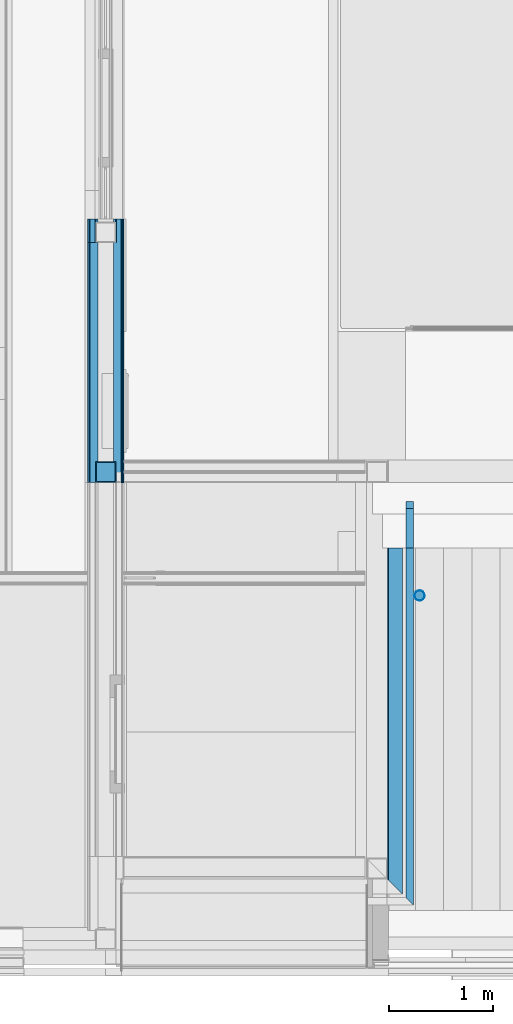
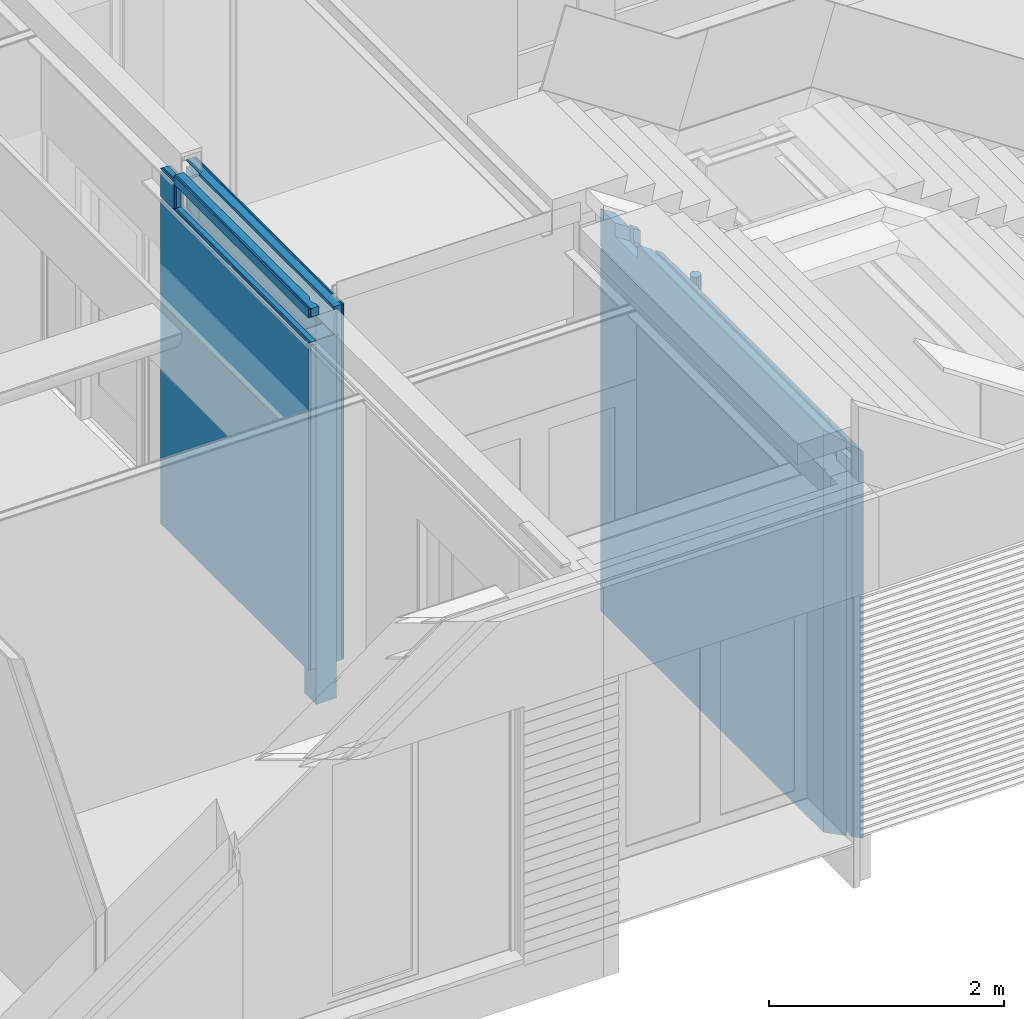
# One storey, part 47 of 165: 12 building element parts, 4 elements without a shape of their own.
"""IFC2X3 building model written with IfcOpenShell, lengths in millimetres."""

from ifc_helpers import new_model, entity, si_unit, converted_unit, derived_unit, money_unit, direction, frame, origin_with_axes, place, context, subcontext, project, spatial, faceted_brep, material, type_object, element, aggregate, save


model = new_model("IFC2X3")

# Units and contexts
model_context = context("Model", 3, precision=0.01, world=origin_with_axes(), true_north=direction((0.0, 1.0)))
body_context = subcontext(model_context, "Body", "Model", "MODEL_VIEW")
ifc_project = project(units=[si_unit("LENGTHUNIT", "METRE", prefix="MILLI"), si_unit("AREAUNIT", "SQUARE_METRE"), si_unit("VOLUMEUNIT", "CUBIC_METRE"), converted_unit("PLANEANGLEUNIT", "DEGREE", entity("IfcPlaneAngleMeasure", 0.0174532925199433), si_unit("PLANEANGLEUNIT", "RADIAN"), dimensions=[0, 0, 0, 0, 0, 0, 0]), money_unit("EUR"), converted_unit("TIMEUNIT", "Year", entity("IfcTimeMeasure", 31556926.0), si_unit("TIMEUNIT", "SECOND"), dimensions=[0, 0, 1, 0, 0, 0, 0]), si_unit("MASSUNIT", "GRAM", prefix="KILO"), si_unit("THERMODYNAMICTEMPERATUREUNIT", "DEGREE_CELSIUS"), si_unit("LUMINOUSINTENSITYUNIT", "LUMEN"), si_unit("ENERGYUNIT", "JOULE", prefix="MEGA"), derived_unit("THERMALCONDUCTANCEUNIT", [(si_unit("POWERUNIT", "WATT"), 1), (si_unit("LENGTHUNIT", "METRE"), -1), (si_unit("THERMODYNAMICTEMPERATUREUNIT", "KELVIN"), -1)]), derived_unit("SPECIFICHEATCAPACITYUNIT", [(si_unit("ENERGYUNIT", "JOULE"), 1), (si_unit("MASSUNIT", "GRAM", prefix="KILO"), -1), (si_unit("THERMODYNAMICTEMPERATUREUNIT", "KELVIN"), -1)]), derived_unit("MASSDENSITYUNIT", [(si_unit("MASSUNIT", "GRAM", prefix="KILO"), 1), (si_unit("VOLUMEUNIT", "CUBIC_METRE"), -1)])], contexts=[model_context])

# Site, building, storey
site_placement = place(None, origin_with_axes())
site = spatial("IfcSite", under=ifc_project, at=site_placement, Name="Site", CompositionType="ELEMENT")
building_placement = place(site_placement, origin_with_axes())
building = spatial("IfcBuilding", under=site, at=building_placement, Name="Naam gebouw", CompositionType="ELEMENT")
storey_placement = place(building_placement, origin_with_axes())
storey = spatial("IfcBuildingStorey", under=building, at=storey_placement, Name="Begane grond", CompositionType="ELEMENT", Elevation=0.0)

# Wall, building element parts
wall_type = type_object("IfcWallType", Name="21 Buitenwand spouwmuur kalkzandsteen 464", PredefinedType="NOTDEFINED")
wall_placement = place(storey_placement, frame((11550.0, 679.9999999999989, -485.0), z_axis=(0.0, 0.0, 1.0), x_axis=(0.0, 1.0, 0.0)))
wall = element("IfcWall", 1, at=wall_placement, inside=storey, type_object=wall_type, Name="21_Wand-x")
ifc_material_1 = material(Name="Isolatie - Steenwol zacht")
building_element_part_1_placement = place(wall_placement, origin_with_axes())
building_element_part_1 = element("IfcBuildingElementPart", 2, at=building_element_part_1_placement, material=ifc_material_1, Name="Isolatie - Steenwol zacht", context=body_context, shape_type="Brep", body=[
    faceted_brep([(3549.982367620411, 8.757421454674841e-07, 4191.358214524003), (3549.982367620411, -144.9999805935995, 4094.691560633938), (3800.000000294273, -144.999998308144, 4094.691548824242), (3800.000000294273, 8.757421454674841e-07, 4191.358214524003), (3549.982367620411, -144.9999966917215, 3952.271364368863), (3549.982367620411, 1.573038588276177e-06, 4055.000000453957), (3549.982367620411, -1.000000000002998, 4055.000000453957), (3549.982367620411, -1.000000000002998, 4048.271361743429), (3174.000000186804, -144.9999966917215, 3952.271364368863), (3174.000000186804, -144.9999973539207, 4096.493409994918), (-144.9999770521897, -144.9999770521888, 4096.493358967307), (-144.9999770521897, -144.9999770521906, 0.0), (3800.0, -144.999998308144, 0.0), (3800.0, -16.00000000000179, 3775.000000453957), (3800.0, -16.00000000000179, 3790.000000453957), (3800.0, -1.000000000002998, 3790.000000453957), (3800.0, -1.000000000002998, 4055.000000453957), (3800.0, 8.757421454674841e-07, 4055.000000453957), (3800.0, 8.757421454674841e-07, 0.0), (3800.0, 8.757421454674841e-07, 3775.000000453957), (-1.000000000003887, -1.000000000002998, 3790.000000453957), (-1.000000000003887, -1.000000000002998, 4055.000000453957), (3174.000000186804, -1.000000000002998, 4055.000000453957), (3174.000000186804, -1.000000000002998, 4048.271361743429), (3174.000000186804, -89.99990827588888, 4133.160136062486), (3174.000000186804, 2.621650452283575e-06, 4055.000000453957), (3174.000000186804, 2.169732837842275e-06, 4184.999999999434), (3174.000000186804, -12.24011238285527, 4184.999999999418), (-89.99981308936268, -89.99981308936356, 4133.16013606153), (-12.2400194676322, -12.24001946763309, 4184.999999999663), (1.147390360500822e-05, 1.147390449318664e-05, 4184.999999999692), (1.147390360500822e-05, 1.147390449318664e-05, 4055.000000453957), (-16.00000000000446, -16.00000000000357, 3790.000000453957), (-16.00000000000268, -16.00000000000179, 3775.000000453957), (1.147390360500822e-05, 1.147390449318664e-05, 3775.000000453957), (1.147390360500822e-05, 1.147390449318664e-05, 0.0)], [[[0, 1, 2, 3]], [[4, 1, 0, 5, 6, 7]], [[8, 9, 10, 11, 12, 2, 1, 4]], [[13, 14, 15, 16, 17, 3, 2, 12, 18, 19]], [[5, 0, 3, 17]], [[6, 5, 17, 16]], [[7, 6, 16, 15, 20, 21, 22, 23]], [[8, 4, 7, 23]], [[24, 9, 8, 23, 22, 25, 26, 27]], [[9, 24, 28, 10]], [[11, 10, 28, 29, 30, 31, 21, 20, 32, 33, 34, 35]], [[12, 11, 35, 18]], [[13, 33, 32, 14]], [[14, 32, 20, 15]], [[19, 18, 35, 34]], [[19, 34, 33, 13]], [[25, 22, 21, 31]], [[26, 25, 31, 30]], [[27, 26, 30, 29]], [[24, 27, 29, 28]]]),
])
ifc_material_2 = material(Name="Steen - Kalkzandsteen")
building_element_part_2_placement = place(wall_placement, origin_with_axes())
building_element_part_2 = element("IfcBuildingElementPart", 3, at=building_element_part_2_placement, material=ifc_material_2, Name="Steen - Kalkzandsteen", context=body_context, shape_type="Brep", body=[
    faceted_brep([(3549.982367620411, -180.0000175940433, 4071.358202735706), (3549.982367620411, -250.0, 4024.691548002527), (3620.0, -250.0, 4024.691548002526), (3620.0, -180.0000032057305, 4071.358212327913), (3549.982367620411, -250.0, 3882.271362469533), (3549.982367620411, -179.9998104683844, 3928.938155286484), (3174.000000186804, -250.0, 3882.271362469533), (3174.000000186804, -250.0, 4026.493408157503), (-249.9999762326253, -250.0, 4026.493341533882), (-249.9999762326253, -250.0, 0.0), (3620.0, -250.0, 0.0), (3620.0, -180.0000032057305, 0.0), (-180.000027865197, -180.0000278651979, 0.0), (-180.0000278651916, -179.9998104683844, 4073.160136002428), (3174.000000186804, -179.9999082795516, 4073.160136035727), (3174.000000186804, -179.9998104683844, 3928.938155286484)], [[[0, 1, 2, 3]], [[4, 1, 0, 5]], [[6, 7, 8, 9, 10, 2, 1, 4]], [[2, 10, 11, 3]], [[5, 0, 3, 11, 12, 13, 14, 15]], [[6, 4, 5, 15]], [[14, 7, 6, 15]], [[7, 14, 13, 8]], [[12, 9, 8, 13]], [[12, 11, 10, 9]]]),
])
aggregate(wall, [building_element_part_1, building_element_part_2])

# Column, building element parts
column_type_1 = type_object("IfcColumnType", Name="200X200X10 200 x 200", PredefinedType="COLUMN")
column_1_placement = place(storey_placement, frame((8850.000000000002, 4579.999999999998, -480.0), z_axis=(0.0, 0.0, 1.0), x_axis=(1.0, 0.0, 0.0)))
column_1 = element("IfcColumn", 4, at=column_1_placement, inside=storey, type_object=column_type_1, Name="28_Kolom-x", ObjectType="COLUMN")
ifc_material_3 = material(Name="Metaal - Staal C")
building_element_part_3_placement = place(column_1_placement, origin_with_axes())
building_element_part_3 = element("IfcBuildingElementPart", 5, at=building_element_part_3_placement, material=ifc_material_3, Name="Metaal - Staal C", context=body_context, shape_type="Brep", body=[
    faceted_brep([(-99.99999999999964, -99.99999999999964, 0.0), (99.99999999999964, -99.99999999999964, 0.0), (99.99999999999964, -99.99999999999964, 3790.0), (-99.99999999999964, -99.99999999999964, 3790.0), (-99.99999999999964, 99.99999999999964, 0.0), (99.99999999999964, 99.99999999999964, 0.0), (-89.99999999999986, -89.99999999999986, 0.0), (89.99999999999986, -89.99999999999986, 0.0), (89.99999999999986, 89.99999999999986, 0.0), (-89.99999999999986, 89.99999999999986, 0.0), (99.99999999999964, 99.99999999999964, 3790.0), (-99.99999999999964, 99.99999999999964, 3790.0), (-89.99999999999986, -89.99999999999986, 3790.0), (-89.99999999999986, 89.99999999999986, 3790.0), (89.99999999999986, 89.99999999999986, 3790.0), (89.99999999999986, -89.99999999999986, 3790.0)], [[[0, 1, 2, 3]], [[0, 4, 5, 1], [6, 7, 8, 9]], [[1, 5, 10, 2]], [[3, 2, 10, 11], [12, 13, 14, 15]], [[4, 0, 3, 11]], [[5, 4, 11, 10]], [[7, 6, 12, 15]], [[8, 7, 15, 14]], [[9, 8, 14, 13]], [[6, 9, 13, 12]]]),
])
ifc_material_4 = material(Name="Beton gewapend C")
building_element_part_4_placement = place(column_1_placement, origin_with_axes())
building_element_part_4 = element("IfcBuildingElementPart", 6, at=building_element_part_4_placement, material=ifc_material_4, Name="Beton gewapend C", context=body_context, shape_type="Brep", body=[
    faceted_brep([(-89.99999999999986, 89.99999999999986, 3760.000002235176), (89.99999999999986, 89.99999999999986, 3760.000002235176), (89.99999999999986, 89.99999999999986, 0.0), (-89.99999999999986, 89.99999999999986, 0.0), (89.99999999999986, -89.99999999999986, 3760.000002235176), (-89.99999999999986, -89.99999999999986, 3760.000002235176), (89.99999999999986, -89.99999999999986, 0.0), (-89.99999999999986, -89.99999999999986, 0.0)], [[[0, 1, 2, 3]], [[4, 1, 0, 5]], [[1, 4, 6, 2]], [[2, 6, 7, 3]], [[5, 0, 3, 7]], [[4, 5, 7, 6]]]),
    faceted_brep([(89.99999999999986, -89.99999999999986, 3785.000002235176), (89.99999999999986, 89.99999999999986, 3785.000002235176), (89.99999999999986, 89.99999999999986, 3790.0), (89.99999999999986, -89.99999999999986, 3790.0), (-89.99999999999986, 89.99999999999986, 3785.000002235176), (-89.99999999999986, -89.99999999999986, 3785.000002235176), (-89.99999999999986, 89.99999999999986, 3790.0), (-89.99999999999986, -89.99999999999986, 3790.0)], [[[0, 1, 2, 3]], [[4, 1, 0, 5]], [[1, 4, 6, 2]], [[2, 6, 7, 3]], [[5, 0, 3, 7]], [[4, 5, 7, 6]]]),
])
aggregate(column_1, [building_element_part_3, building_element_part_4])

# Proxy, building element parts
building_element_proxy_type = type_object("IfcBuildingElementProxyType", Name="22 Metal stud 350 350", PredefinedType="NOTDEFINED")
proxy_placement = place(storey_placement, frame((8850.000000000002, 7004.999999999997, -100.0), z_axis=(0.0, 0.0, 1.0), x_axis=(0.0, -1.0, 0.0)))
proxy = element("IfcBuildingElementProxy", 7, at=proxy_placement, inside=storey, type_object=building_element_proxy_type, Name="_Wand-x")
ifc_material_5 = material(Name="Gipsplaat")
building_element_part_5_placement = place(proxy_placement, origin_with_axes())
building_element_part_5 = element("IfcBuildingElementPart", 8, at=building_element_part_5_placement, material=ifc_material_5, Name="Gipsplaat", context=body_context, shape_type="Brep", body=[
    faceted_brep([(0.0, 162.4999999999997, 0.0), (0.0, 162.4999999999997, 3700.0), (0.0, 175.0000000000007, 3700.0), (0.0, 175.0000000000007, 0.0), (2524.999999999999, 162.4999999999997, 0.0), (2525.000000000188, 162.4999999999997, 3700.0), (2525.000000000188, 175.0000000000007, 3700.0), (2524.999999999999, 174.9999999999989, 0.0)], [[[0, 1, 2, 3]], [[4, 5, 1, 0]], [[5, 6, 2, 1]], [[3, 2, 6, 7]], [[0, 3, 7, 4]], [[7, 6, 5, 4]]]),
])
building_element_part_6_placement = place(proxy_placement, origin_with_axes())
building_element_part_6 = element("IfcBuildingElementPart", 9, at=building_element_part_6_placement, material=ifc_material_5, Name="Gipsplaat", context=body_context, shape_type="Brep", body=[
    faceted_brep([(0.0, 150.0000000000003, 0.0), (0.0, 150.0000000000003, 3700.0), (0.0, 162.4999999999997, 3700.0), (0.0, 162.4999999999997, 0.0), (2524.999999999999, 150.0000000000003, 0.0), (2525.000000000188, 150.0000000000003, 3700.0), (2525.000000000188, 162.4999999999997, 3700.0), (2524.999999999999, 162.4999999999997, 0.0)], [[[0, 1, 2, 3]], [[4, 5, 1, 0]], [[5, 6, 2, 1]], [[3, 2, 6, 7]], [[0, 3, 7, 4]], [[7, 6, 5, 4]]]),
])
ifc_material_6 = material(Name="ALG - LICHTE SCHEIDINGSWAND")
building_element_part_7_placement = place(proxy_placement, origin_with_axes())
building_element_part_7 = element("IfcBuildingElementPart", 10, at=building_element_part_7_placement, material=ifc_material_6, Name="ALG - LICHTE SCHEIDINGSWAND", context=body_context, shape_type="Brep", body=[
    faceted_brep([(2324.999999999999, 74.99999999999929, 3410.0), (2324.999999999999, 94.99999999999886, 3410.0), (2524.999999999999, 94.99999999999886, 3410.0), (2524.999999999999, 74.99999999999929, 3410.0), (2324.999999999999, 94.99999999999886, 3405.000002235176), (2324.999999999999, 74.99999999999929, 3405.000002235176), (224.9999999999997, 94.99999999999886, 3405.000002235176), (224.9999999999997, 94.99999999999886, 3410.0), (25.00000000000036, 94.99999999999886, 3410.0), (25.00000000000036, 94.99999999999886, 3405.000002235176), (0.0, 94.99999999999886, 3405.000002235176), (0.0, 94.99999999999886, 3630.000002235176), (2524.999999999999, 94.99999999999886, 3630.000002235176), (2524.999999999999, 74.99999999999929, 3630.000002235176), (0.0, 75.00000000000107, 3630.000002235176), (0.0, 75.00000000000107, 3405.000002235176), (25.00000000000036, 75.00000000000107, 3405.000002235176), (25.00000000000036, 74.99999999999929, 3410.0), (224.9999999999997, 74.99999999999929, 3410.0), (224.9999999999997, 75.00000000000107, 3405.000002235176)], [[[0, 1, 2, 3]], [[4, 1, 0, 5]], [[1, 4, 6, 7, 8, 9, 10, 11, 12, 2]], [[3, 2, 12, 13]], [[0, 3, 13, 14, 15, 16, 17, 18, 19, 5]], [[4, 5, 19, 6]], [[7, 6, 19, 18]], [[17, 8, 7, 18]], [[9, 8, 17, 16]], [[9, 16, 15, 10]], [[11, 10, 15, 14]], [[12, 11, 14, 13]]]),
    faceted_brep([(2324.999999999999, 99.99999999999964, 3380.000002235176), (2524.999999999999, 99.99999999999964, 3380.000002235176), (2524.999999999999, 117.9999999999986, 3380.000002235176), (0.0, 117.9999999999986, 3380.000002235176), (0.0, 75.00000000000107, 3380.000002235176), (25.00000000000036, 75.00000000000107, 3380.000002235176), (25.00000000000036, 99.99999999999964, 3380.000002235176), (224.9999999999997, 99.99999999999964, 3380.000002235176), (224.9999999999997, 75.00000000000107, 3380.000002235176), (2324.999999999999, 74.99999999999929, 3380.000002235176), (2324.999999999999, 99.99999999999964, 0.0), (2524.999999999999, 99.99999999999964, 0.0), (2524.999999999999, 150.0000000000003, 0.0), (2525.000000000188, 150.0000000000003, 3700.0), (2525.000000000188, 74.99999999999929, 3700.0), (2524.999999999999, 74.99999999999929, 3670.000002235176), (2524.999999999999, 102.999999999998, 3670.000002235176), (2524.999999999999, 102.999999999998, 3405.000002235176), (2524.999999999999, 117.9999999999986, 3405.000002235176), (0.0, 117.9999999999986, 3405.000002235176), (0.0, 74.99999999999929, 0.0), (0.0, 102.999999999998, 3405.000002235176), (0.0, 102.999999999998, 3670.000002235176), (0.0, 118.0000000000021, 3670.0), (0.0, 118.0000000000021, 3695.0), (0.0, 103.0000000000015, 3695.0), (0.0, 103.0000000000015, 3700.0), (0.0, 150.0000000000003, 3700.0), (0.0, 150.0000000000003, 0.0), (25.00000000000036, 74.99999999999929, 0.0), (25.00000000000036, 99.99999999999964, 0.0), (224.9999999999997, 99.99999999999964, 0.0), (224.9999999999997, 74.99999999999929, 0.0), (2324.999999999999, 74.99999999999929, 0.0), (224.9999999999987, 103.0000000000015, 3700.0), (224.9999999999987, 95.00000000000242, 3700.0), (0.0, 95.00000000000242, 3700.0), (0.0, 75.00000000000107, 3700.0), (224.9999999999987, 74.99999999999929, 3695.0), (224.9999999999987, 74.99999999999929, 3670.000002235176), (0.0, 75.00000000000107, 3695.0), (224.9999999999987, 102.999999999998, 3670.000002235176), (224.9999999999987, 118.0000000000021, 3670.0), (224.9999999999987, 118.0000000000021, 3695.0), (224.9999999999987, 103.0000000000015, 3695.0), (224.9999999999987, 95.00000000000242, 3695.0), (0.0, 95.00000000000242, 3695.0)], [[[0, 1, 2, 3, 4, 5, 6, 7, 8, 9]], [[1, 0, 10, 11]], [[1, 11, 12, 13, 14, 15, 16, 17, 18, 2]], [[18, 19, 3, 2]], [[20, 4, 3, 19, 21, 22, 23, 24, 25, 26, 27, 28]], [[29, 5, 4, 20]], [[6, 5, 29, 30]], [[7, 6, 30, 31]], [[8, 7, 31, 32]], [[33, 9, 8, 32]], [[0, 9, 33, 10]], [[10, 33, 32, 31, 30, 29, 20, 28, 12, 11]], [[12, 28, 27, 13]], [[34, 35, 36, 37, 14, 13, 27, 26]], [[38, 39, 15, 14, 37, 40]], [[15, 39, 41, 16]], [[16, 41, 22, 21, 17]], [[17, 21, 19, 18]], [[23, 22, 41, 42]], [[43, 24, 23, 42]], [[44, 25, 24, 43]], [[44, 34, 26, 25]], [[42, 41, 39, 38, 45, 35, 34, 44, 43]], [[45, 46, 36, 35]], [[36, 46, 40, 37]], [[38, 40, 46, 45]]]),
])
building_element_part_8_placement = place(proxy_placement, origin_with_axes())
building_element_part_8 = element("IfcBuildingElementPart", 11, at=building_element_part_8_placement, material=ifc_material_5, Name="Gipsplaat", context=body_context, shape_type="Brep", body=[
    faceted_brep([(224.9999999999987, -150.0000000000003, 3670.0), (224.9999999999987, -150.0000000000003, 3695.0), (0.0, -150.0000000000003, 3695.0), (0.0, -150.0000000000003, 3700.0), (224.9999999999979, -150.0000000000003, 3700.0), (224.9999999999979, -150.0000000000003, 3760.0), (2524.999999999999, -150.0000000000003, 3760.0), (2525.000000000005, -150.0000000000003, 3670.0), (224.9999999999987, -162.4999999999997, 3670.0), (224.9999999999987, -162.4999999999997, 3695.0), (0.0, -162.4999999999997, 3695.0), (0.0, -162.4999999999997, 3700.0), (224.9999999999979, -162.4999999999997, 3700.0), (224.9999999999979, -162.4999999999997, 3760.0), (2524.999999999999, -162.4999999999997, 3760.0), (2525.000000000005, -162.4999999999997, 3670.0)], [[[0, 1, 2, 3, 4, 5, 6, 7]], [[1, 0, 8, 9]], [[10, 2, 1, 9]], [[2, 10, 11, 3]], [[12, 4, 3, 11]], [[12, 13, 5, 4]], [[6, 5, 13, 14]], [[14, 15, 7, 6]], [[8, 0, 7, 15]], [[9, 8, 15, 14, 13, 12, 11, 10]]]),
    faceted_brep([(0.0, -162.4999999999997, 3380.000002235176), (0.0, -150.0000000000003, 3380.000002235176), (0.0, -150.0000000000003, 0.0), (0.0, -162.4999999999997, 0.0), (2524.999999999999, -150.0000000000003, 3380.000002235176), (2524.999999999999, -162.4999999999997, 3380.000002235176), (2524.999999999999, -150.0000000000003, 0.0), (2524.999999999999, -162.4999999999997, 0.0)], [[[0, 1, 2, 3]], [[4, 1, 0, 5]], [[1, 4, 6, 2]], [[3, 2, 6, 7]], [[5, 0, 3, 7]], [[4, 5, 7, 6]]]),
    faceted_brep([(2524.999999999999, -150.0000000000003, 3405.000002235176), (0.0, -150.0000000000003, 3405.000002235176), (0.0, -150.0000000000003, 3670.0), (224.9999999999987, -150.0000000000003, 3670.0), (224.9999999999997, -150.0000000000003, 3410.0), (2525.000000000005, -150.0000000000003, 3410.0), (0.0, -162.4999999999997, 3405.000002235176), (2524.999999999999, -162.4999999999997, 3405.000002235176), (0.0, -162.4999999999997, 3670.0), (224.9999999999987, -162.4999999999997, 3670.0), (224.9999999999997, -162.4999999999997, 3410.0), (2525.000000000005, -162.4999999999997, 3410.0)], [[[0, 1, 2, 3, 4, 5]], [[6, 1, 0, 7]], [[1, 6, 8, 2]], [[3, 2, 8, 9]], [[10, 4, 3, 9]], [[11, 5, 4, 10]], [[7, 0, 5, 11]], [[6, 7, 11, 10, 9, 8]]]),
])
building_element_part_9_placement = place(proxy_placement, origin_with_axes())
building_element_part_9 = element("IfcBuildingElementPart", 12, at=building_element_part_9_placement, material=ifc_material_5, Name="Gipsplaat", context=body_context, shape_type="Brep", body=[
    faceted_brep([(224.9999999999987, -162.4999999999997, 3670.0), (224.9999999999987, -162.4999999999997, 3695.0), (0.0, -162.4999999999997, 3695.0), (0.0, -162.4999999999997, 3700.0), (224.9999999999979, -162.4999999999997, 3700.0), (224.9999999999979, -162.4999999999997, 3760.0), (2524.999999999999, -162.4999999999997, 3760.0), (2525.000000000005, -162.4999999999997, 3670.0), (224.9999999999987, -175.0000000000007, 3670.0), (224.9999999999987, -175.0000000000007, 3695.0), (0.0, -174.9999999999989, 3695.0), (0.0, -174.9999999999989, 3700.0), (224.9999999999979, -175.0000000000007, 3700.0), (224.9999999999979, -174.9999999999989, 3760.0), (2524.999999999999, -175.0000000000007, 3760.0), (2525.000000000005, -175.0000000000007, 3670.0)], [[[0, 1, 2, 3, 4, 5, 6, 7]], [[1, 0, 8, 9]], [[10, 2, 1, 9]], [[2, 10, 11, 3]], [[12, 4, 3, 11]], [[12, 13, 5, 4]], [[6, 5, 13, 14]], [[14, 15, 7, 6]], [[8, 0, 7, 15]], [[9, 8, 15, 14, 13, 12, 11, 10]]]),
    faceted_brep([(0.0, -174.9999999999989, 3380.000002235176), (0.0, -162.4999999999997, 3380.000002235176), (0.0, -162.4999999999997, 0.0), (0.0, -175.0000000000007, 0.0), (2524.999999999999, -162.4999999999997, 3380.000002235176), (2524.999999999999, -175.0000000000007, 3380.000002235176), (2524.999999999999, -162.4999999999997, 0.0), (2524.999999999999, -175.0000000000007, 0.0)], [[[0, 1, 2, 3]], [[4, 1, 0, 5]], [[1, 4, 6, 2]], [[3, 2, 6, 7]], [[5, 0, 3, 7]], [[4, 5, 7, 6]]]),
    faceted_brep([(2524.999999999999, -162.4999999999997, 3405.000002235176), (0.0, -162.4999999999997, 3405.000002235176), (0.0, -162.4999999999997, 3670.0), (224.9999999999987, -162.4999999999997, 3670.0), (224.9999999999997, -162.4999999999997, 3410.0), (2525.000000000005, -162.4999999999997, 3410.0), (0.0, -174.9999999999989, 3405.000002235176), (2524.999999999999, -175.0000000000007, 3405.000002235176), (0.0, -174.9999999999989, 3670.0), (224.9999999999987, -175.0000000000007, 3670.0), (224.9999999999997, -175.0000000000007, 3410.0), (2525.000000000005, -175.0000000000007, 3410.0)], [[[0, 1, 2, 3, 4, 5]], [[6, 1, 0, 7]], [[1, 6, 8, 2]], [[3, 2, 8, 9]], [[10, 4, 3, 9]], [[11, 5, 4, 10]], [[7, 0, 5, 11]], [[6, 7, 11, 10, 9, 8]]]),
])
building_element_part_10_placement = place(proxy_placement, origin_with_axes())
building_element_part_10 = element("IfcBuildingElementPart", 13, at=building_element_part_10_placement, material=ifc_material_6, Name="ALG - LICHTE SCHEIDINGSWAND", context=body_context, shape_type="Brep", body=[
    faceted_brep([(2365.165921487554, -74.99999999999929, 3699.999999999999), (2372.638936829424, -81.47540465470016, 3699.999999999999), (2397.714201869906, -92.92689449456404, 3699.999999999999), (2424.999999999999, -96.84999999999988, 3699.999999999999), (2452.285798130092, -92.92689449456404, 3699.999999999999), (2477.361063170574, -81.47540465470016, 3699.999999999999), (2484.834078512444, -74.99999999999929, 3699.999999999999), (2365.165921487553, -74.99999999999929, 3760.0), (2372.638936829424, -81.47540465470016, 3760.0), (2397.714201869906, -92.92689449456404, 3760.0), (2424.999999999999, -96.84999999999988, 3760.0), (2452.285798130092, -92.92689449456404, 3760.0), (2477.361063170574, -81.47540465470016, 3760.0), (2484.834078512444, -74.99999999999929, 3760.0), (2524.999999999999, -74.99999999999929, 3760.0), (2525.000000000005, -74.99999999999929, 3670.0), (224.9999999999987, -74.99999999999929, 3670.0), (224.9999999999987, -74.99999999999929, 3695.0), (0.0, -74.99999999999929, 3695.0), (0.0, -74.99999999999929, 3700.0), (224.9999999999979, -74.99999999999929, 3700.0), (224.9999999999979, -74.99999999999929, 3760.0), (224.9999999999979, -150.0000000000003, 3760.0), (2524.999999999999, -150.0000000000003, 3760.0), (2525.000000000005, -150.0000000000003, 3670.0), (224.9999999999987, -150.0000000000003, 3670.0), (224.9999999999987, -94.99999999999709, 3695.0), (224.9999999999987, -150.0000000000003, 3695.0), (224.9999999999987, -102.999999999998, 3695.0), (224.9999999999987, -102.999999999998, 3700.0), (224.9999999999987, -94.99999999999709, 3700.0), (0.0, -94.99999999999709, 3695.0), (0.0, -94.99999999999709, 3700.0), (224.9999999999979, -150.0000000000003, 3700.0), (0.0, -150.0000000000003, 3695.0), (0.0, -150.0000000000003, 3700.0), (0.0, -102.999999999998, 3695.0), (0.0, -102.999999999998, 3700.0)], [[[0, 1, 2, 3, 4, 5, 6]], [[0, 7, 8, 1]], [[8, 9, 2, 1]], [[9, 10, 3, 2]], [[10, 11, 4, 3]], [[11, 12, 5, 4]], [[12, 13, 6, 5]], [[0, 6, 13, 14, 15, 16, 17, 18, 19, 20, 21, 7]], [[9, 8, 7, 21, 22, 23, 14, 13, 12, 11, 10]], [[14, 23, 24, 15]], [[24, 25, 16, 15]], [[26, 17, 16, 25, 27, 28, 29, 30]], [[26, 31, 18, 17]], [[18, 31, 32, 19]], [[19, 32, 30, 20]], [[20, 30, 29, 33, 22, 21]], [[34, 27, 25, 24, 23, 22, 33, 35]], [[27, 34, 36, 28]], [[28, 36, 37, 29]], [[26, 30, 32, 31]], [[33, 29, 37, 35]], [[37, 36, 34, 35]]]),
    faceted_brep([(224.9999999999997, -74.99999999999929, 3410.0), (25.00000000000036, -74.99999999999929, 3410.0), (25.00000000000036, -74.99999999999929, 3405.000002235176), (0.0, -74.99999999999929, 3405.000002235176), (0.0, -74.99999999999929, 3630.000002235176), (224.9999999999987, -74.99999999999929, 3630.000002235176), (224.9999999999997, -95.00000000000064, 3410.0), (25.00000000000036, -95.00000000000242, 3410.0), (25.00000000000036, -95.00000000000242, 3405.000002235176), (0.0, -95.00000000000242, 3405.000002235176), (0.0, -95.00000000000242, 3630.000002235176), (224.9999999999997, -95.00000000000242, 3630.000002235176)], [[[0, 1, 2, 3, 4, 5]], [[0, 6, 7, 1]], [[2, 1, 7, 8]], [[2, 8, 9, 3]], [[3, 9, 10, 4]], [[11, 5, 4, 10]], [[5, 11, 6, 0]], [[7, 6, 11, 10, 9, 8]]]),
    faceted_brep([(2524.999999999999, -99.99999999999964, 3380.000002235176), (2324.999999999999, -99.99999999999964, 3380.000002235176), (2324.999999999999, -74.99999999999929, 3380.000002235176), (224.9999999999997, -74.99999999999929, 3380.000002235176), (224.9999999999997, -99.99999999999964, 3380.000002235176), (25.00000000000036, -99.99999999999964, 3380.000002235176), (25.00000000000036, -74.99999999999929, 3380.000002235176), (0.0, -74.99999999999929, 3380.000002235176), (0.0, -150.0000000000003, 3380.000002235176), (2524.999999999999, -150.0000000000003, 3380.000002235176), (2524.999999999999, -99.99999999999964, 0.0), (2324.999999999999, -99.99999999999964, 0.0), (2324.999999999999, -75.00000000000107, 0.0), (224.9999999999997, -74.99999999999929, 0.0), (224.9999999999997, -99.99999999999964, 0.0), (25.00000000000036, -99.99999999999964, 0.0), (25.00000000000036, -74.99999999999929, 0.0), (0.0, -74.99999999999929, 0.0), (0.0, -150.0000000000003, 0.0), (2524.999999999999, -150.0000000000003, 0.0)], [[[0, 1, 2, 3, 4, 5, 6, 7, 8, 9]], [[1, 0, 10, 11]], [[12, 2, 1, 11]], [[2, 12, 13, 3]], [[4, 3, 13, 14]], [[5, 4, 14, 15]], [[16, 6, 5, 15]], [[6, 16, 17, 7]], [[18, 8, 7, 17]], [[19, 9, 8, 18]], [[10, 0, 9, 19]], [[11, 10, 19, 18, 17, 16, 15, 14, 13, 12]]]),
    faceted_brep([(2324.999999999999, -95.00000000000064, 3410.0), (2324.999999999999, -74.99999999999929, 3410.0), (224.9999999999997, -74.99999999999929, 3410.0), (224.9999999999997, -95.00000000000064, 3410.0), (2324.999999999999, -74.99999999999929, 3405.000002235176), (2324.999999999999, -95.00000000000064, 3405.000002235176), (224.9999999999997, -74.99999999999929, 3405.000002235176), (224.9999999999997, -95.00000000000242, 3405.000002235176)], [[[0, 1, 2, 3]], [[4, 1, 0, 5]], [[1, 4, 6, 2]], [[2, 6, 7, 3]], [[5, 0, 3, 7]], [[4, 5, 7, 6]]]),
    faceted_brep([(224.9999999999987, -103.0000000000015, 3670.000002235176), (0.0, -103.0000000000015, 3670.000002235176), (0.0, -150.0000000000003, 3670.0), (224.9999999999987, -150.0000000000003, 3670.0), (0.0, -103.0000000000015, 3405.000002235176), (224.9999999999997, -103.0000000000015, 3410.0), (2524.999999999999, -103.0000000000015, 3410.0), (2524.999999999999, -103.0000000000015, 3405.000002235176), (0.0, -150.0000000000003, 3405.000002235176), (2524.999999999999, -150.0000000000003, 3405.000002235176), (2525.000000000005, -150.0000000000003, 3410.0), (224.9999999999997, -150.0000000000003, 3410.0)], [[[0, 1, 2, 3]], [[4, 1, 0, 5, 6, 7]], [[4, 8, 2, 1]], [[8, 9, 10, 11, 3, 2]], [[5, 0, 3, 11]], [[6, 5, 11, 10]], [[7, 6, 10, 9]], [[8, 4, 7, 9]]]),
])
aggregate(proxy, [building_element_part_5, building_element_part_6, building_element_part_7, building_element_part_8, building_element_part_9, building_element_part_10])

# Column, building element parts
column_type_2 = type_object("IfcColumnType", Name="50 HWA 100 100 x 100", PredefinedType="COLUMN")
column_2_placement = place(storey_placement, frame((11860.00000000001, 3395.959504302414, -449.9999999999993), z_axis=(0.0, 0.0, 1.0), x_axis=(1.0, 0.0, 0.0)))
column_2 = element("IfcColumn", 14, at=column_2_placement, inside=storey, type_object=column_type_2, Name="28_Kolom-x", ObjectType="COLUMN")
building_element_part_11_placement = place(column_2_placement, origin_with_axes())
building_element_part_11 = element("IfcBuildingElementPart", 15, at=building_element_part_11_placement, material=ifc_material_3, Name="Metaal - Staal C", context=body_context, shape_type="Brep", body=[
    faceted_brep([(50.00000000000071, 0.0, 0.0), (46.19397662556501, 19.13417161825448, 0.0), (46.19397662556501, 19.13417161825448, 4020.0), (50.00000000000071, 0.0, 4020.0), (46.19397662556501, -19.13417161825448, 0.0), (35.35533905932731, -35.35533905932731, 0.0), (19.13417161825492, -46.19397662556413, 0.0), (0.0, -49.99999999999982, 0.0), (-19.13417161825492, -46.19397662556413, 0.0), (-35.35533905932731, -35.35533905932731, 0.0), (-46.19397662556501, -19.13417161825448, 0.0), (-50.00000000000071, 0.0, 0.0), (-46.19397662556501, 19.13417161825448, 0.0), (-35.35533905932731, 35.35533905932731, 0.0), (-19.13417161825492, 46.19397662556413, 0.0), (0.0, 49.99999999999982, 0.0), (19.13417161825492, 46.19397662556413, 0.0), (35.35533905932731, 35.35533905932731, 0.0), (-47.0000000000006, 0.0, 0.0), (-43.42233802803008, -17.9861213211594, 0.0), (-33.23401871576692, -33.23401871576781, 0.0), (-17.98612132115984, -43.42233802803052, 0.0), (0.0, -47.00000000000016, 0.0), (17.98612132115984, -43.42233802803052, 0.0), (33.23401871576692, -33.23401871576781, 0.0), (43.42233802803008, -17.9861213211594, 0.0), (47.0000000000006, 0.0, 0.0), (43.42233802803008, 17.9861213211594, 0.0), (33.23401871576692, 33.23401871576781, 0.0), (17.98612132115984, 43.42233802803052, 0.0), (0.0, 47.00000000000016, 0.0), (-17.98612132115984, 43.42233802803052, 0.0), (-33.23401871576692, 33.23401871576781, 0.0), (-43.42233802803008, 17.9861213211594, 0.0), (35.35533905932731, 35.35533905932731, 4020.0), (19.13417161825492, 46.19397662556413, 4020.0), (0.0, 49.99999999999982, 4020.0), (-19.13417161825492, 46.19397662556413, 4020.0), (-35.35533905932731, 35.35533905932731, 4020.0), (-46.19397662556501, 19.13417161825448, 4020.0), (-50.00000000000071, 0.0, 4020.0), (-46.19397662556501, -19.13417161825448, 4020.0), (-35.35533905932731, -35.35533905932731, 4020.0), (-19.13417161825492, -46.19397662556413, 4020.0), (0.0, -49.99999999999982, 4020.0), (19.13417161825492, -46.19397662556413, 4020.0), (35.35533905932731, -35.35533905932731, 4020.0), (46.19397662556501, -19.13417161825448, 4020.0), (-47.0000000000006, 0.0, 4020.0), (-43.42233802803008, 17.9861213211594, 4020.0), (-33.23401871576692, 33.23401871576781, 4020.0), (-17.98612132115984, 43.42233802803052, 4020.0), (0.0, 47.00000000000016, 4020.0), (17.98612132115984, 43.42233802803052, 4020.0), (33.23401871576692, 33.23401871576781, 4020.0), (43.42233802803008, 17.9861213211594, 4020.0), (47.0000000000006, 0.0, 4020.0), (43.42233802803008, -17.9861213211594, 4020.0), (33.23401871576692, -33.23401871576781, 4020.0), (17.98612132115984, -43.42233802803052, 4020.0), (0.0, -47.00000000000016, 4020.0), (-17.98612132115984, -43.42233802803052, 4020.0), (-33.23401871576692, -33.23401871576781, 4020.0), (-43.42233802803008, -17.9861213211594, 4020.0)], [[[0, 1, 2, 3]], [[0, 4, 5, 6, 7, 8, 9, 10, 11, 12, 13, 14, 15, 16, 17, 1], [18, 19, 20, 21, 22, 23, 24, 25, 26, 27, 28, 29, 30, 31, 32, 33]], [[1, 17, 34, 2]], [[3, 2, 34, 35, 36, 37, 38, 39, 40, 41, 42, 43, 44, 45, 46, 47], [48, 49, 50, 51, 52, 53, 54, 55, 56, 57, 58, 59, 60, 61, 62, 63]], [[4, 0, 3, 47]], [[5, 4, 47, 46]], [[6, 5, 46, 45]], [[7, 6, 45, 44]], [[8, 7, 44, 43]], [[9, 8, 43, 42]], [[10, 9, 42, 41]], [[11, 10, 41, 40]], [[12, 11, 40, 39]], [[13, 12, 39, 38]], [[14, 13, 38, 37]], [[15, 14, 37, 36]], [[16, 15, 36, 35]], [[17, 16, 35, 34]], [[19, 18, 48, 63]], [[20, 19, 63, 62]], [[21, 20, 62, 61]], [[22, 21, 61, 60]], [[23, 22, 60, 59]], [[24, 23, 59, 58]], [[25, 24, 58, 57]], [[26, 25, 57, 56]], [[27, 26, 56, 55]], [[28, 27, 55, 54]], [[29, 28, 54, 53]], [[30, 29, 53, 52]], [[31, 30, 52, 51]], [[32, 31, 51, 50]], [[33, 32, 50, 49]], [[18, 33, 49, 48]]]),
])
ifc_material_7 = material(Name="Lucht kolommen")
building_element_part_12_placement = place(column_2_placement, origin_with_axes())
building_element_part_12 = element("IfcBuildingElementPart", 16, at=building_element_part_12_placement, material=ifc_material_7, Name="Lucht kolommen", context=body_context, shape_type="Brep", body=[
    faceted_brep([(47.0000000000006, 0.0, 0.0), (43.42233802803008, 17.9861213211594, 0.0), (43.42233802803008, 17.9861213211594, 4020.0), (47.0000000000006, 0.0, 4020.0), (43.42233802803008, -17.9861213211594, 0.0), (33.23401871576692, -33.23401871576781, 0.0), (17.98612132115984, -43.42233802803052, 0.0), (0.0, -47.00000000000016, 0.0), (-17.98612132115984, -43.42233802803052, 0.0), (-33.23401871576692, -33.23401871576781, 0.0), (-43.42233802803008, -17.9861213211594, 0.0), (-47.0000000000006, 0.0, 0.0), (-43.42233802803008, 17.9861213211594, 0.0), (-33.23401871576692, 33.23401871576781, 0.0), (-17.98612132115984, 43.42233802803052, 0.0), (0.0, 47.00000000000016, 0.0), (17.98612132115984, 43.42233802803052, 0.0), (33.23401871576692, 33.23401871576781, 0.0), (33.23401871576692, 33.23401871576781, 4020.0), (17.98612132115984, 43.42233802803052, 4020.0), (0.0, 47.00000000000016, 4020.0), (-17.98612132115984, 43.42233802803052, 4020.0), (-33.23401871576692, 33.23401871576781, 4020.0), (-43.42233802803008, 17.9861213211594, 4020.0), (-47.0000000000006, 0.0, 4020.0), (-43.42233802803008, -17.9861213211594, 4020.0), (-33.23401871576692, -33.23401871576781, 4020.0), (-17.98612132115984, -43.42233802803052, 4020.0), (0.0, -47.00000000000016, 4020.0), (17.98612132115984, -43.42233802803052, 4020.0), (33.23401871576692, -33.23401871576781, 4020.0), (43.42233802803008, -17.9861213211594, 4020.0)], [[[0, 1, 2, 3]], [[0, 4, 5, 6, 7, 8, 9, 10, 11, 12, 13, 14, 15, 16, 17, 1]], [[1, 17, 18, 2]], [[3, 2, 18, 19, 20, 21, 22, 23, 24, 25, 26, 27, 28, 29, 30, 31]], [[4, 0, 3, 31]], [[5, 4, 31, 30]], [[6, 5, 30, 29]], [[7, 6, 29, 28]], [[8, 7, 28, 27]], [[9, 8, 27, 26]], [[10, 9, 26, 25]], [[11, 10, 25, 24]], [[12, 11, 24, 23]], [[13, 12, 23, 22]], [[14, 13, 22, 21]], [[15, 14, 21, 20]], [[16, 15, 20, 19]], [[17, 16, 19, 18]]]),
])
aggregate(column_2, [building_element_part_11, building_element_part_12])

save(model, "model.ifc")
